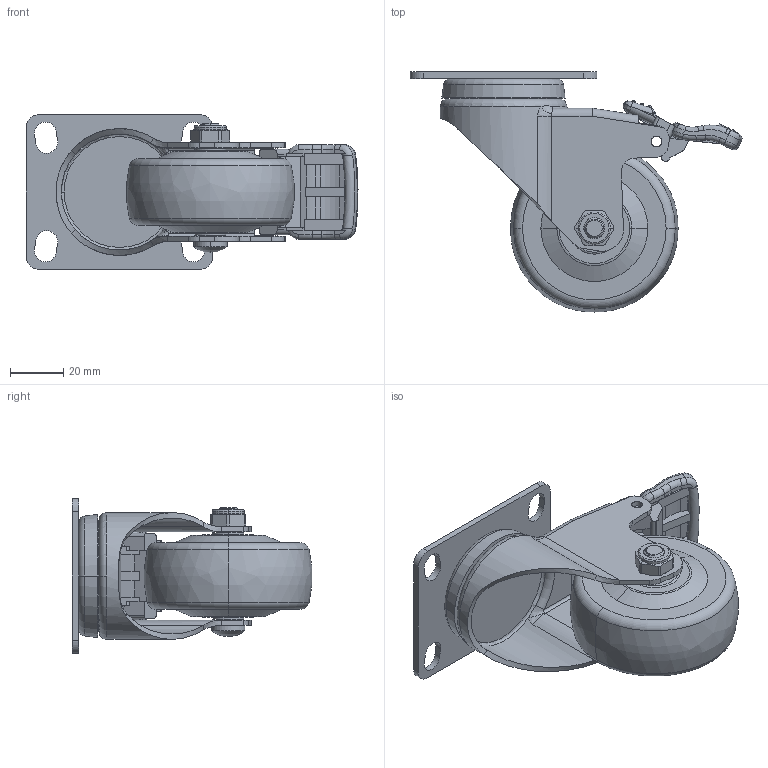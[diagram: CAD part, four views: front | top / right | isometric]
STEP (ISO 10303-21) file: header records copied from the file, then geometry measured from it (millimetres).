
FILE_DESCRIPTION((''),'2;1');
FILE_NAME('361125-3625-64_ASM','2020-01-03T',('L'),(''),'PRO/ENGINEER BY PARAMETRIC TECHNOLOGY CORPORATION, 2010280','PRO/ENGINEER BY PARAMETRIC TECHNOLOGY CORPORATION, 2010280','');
FILE_SCHEMA(('CONFIG_CONTROL_DESIGN'));
Length unit declared in the file: millimetre
Products named in the file (6): 361225H; 3625-964; 350-33A; 300-34; 3601-64; 361125-3625-64_ASM
Assembly tree (5 placements, depth 2):
  361125-3625-64_ASM
    361225H
    3625-964
    350-33A
    300-34
    3601-64
Bounding box: 124.29 x 89.81 x 58 mm (x, y, z)
Volume: 125148.5 mm3; surface area: 43182.9 mm2
Topology: 5 solids, 5 shells, 455 faces, 1158 edges, 724 vertices
Faces by surface type: cylinder 158, plane 153, bspline 66, torus 36, cone 28, sphere 14
Entity records: 20748 total; most frequent: CARTESIAN_POINT 10100, ORIENTED_EDGE 2312, DIRECTION 2037, EDGE_CURVE 1156, AXIS2_PLACEMENT_3D 765, VERTEX_POINT 724, VECTOR 507, LINE 507
